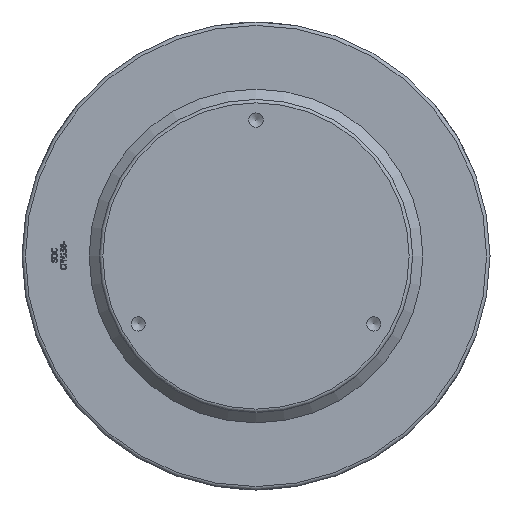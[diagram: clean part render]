
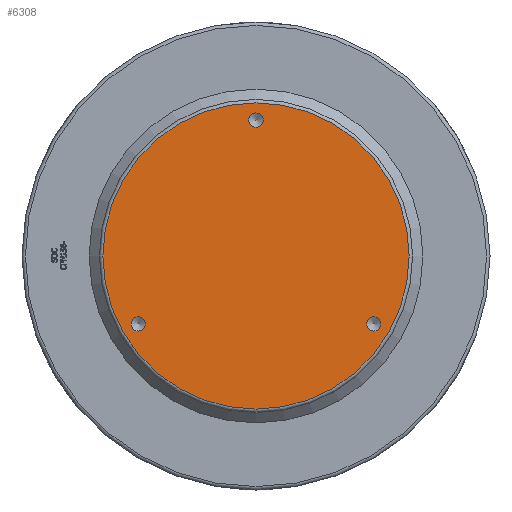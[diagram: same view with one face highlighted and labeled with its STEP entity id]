
A CAD part, front view. The second image highlights one B-rep face of the part: STEP entity #6308.
In plain terms, the highlighted planar face has unit normal (0, -1, 0) as drawn and (0, 1, 0) by its records, which use the part's own axes.
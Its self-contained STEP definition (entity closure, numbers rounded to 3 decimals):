
#99=PLANE('',#6632);
#1814=FACE_BOUND('',#2412,.T.);
#1815=FACE_BOUND('',#2413,.T.);
#1816=FACE_BOUND('',#2414,.T.);
#2037=FACE_OUTER_BOUND('',#2411,.T.);
#2411=EDGE_LOOP('',(#5157));
#2412=EDGE_LOOP('',(#5158));
#2413=EDGE_LOOP('',(#5159));
#2414=EDGE_LOOP('',(#5160));
#2639=CIRCLE('',#6551,10.376);
#2641=CIRCLE('',#6555,10.376);
#2643=CIRCLE('',#6559,10.376);
#2645=CIRCLE('',#6630,222.5);
#2665=VERTEX_POINT('',#7672);
#2667=VERTEX_POINT('',#7678);
#2669=VERTEX_POINT('',#7684);
#2973=VERTEX_POINT('',#9842);
#3305=EDGE_CURVE('',#2665,#2665,#2639,.T.);
#3307=EDGE_CURVE('',#2667,#2667,#2641,.T.);
#3309=EDGE_CURVE('',#2669,#2669,#2643,.T.);
#3764=EDGE_CURVE('',#2973,#2973,#2645,.T.);
#5157=ORIENTED_EDGE('',*,*,#3764,.F.);
#5158=ORIENTED_EDGE('',*,*,#3305,.T.);
#5159=ORIENTED_EDGE('',*,*,#3307,.T.);
#5160=ORIENTED_EDGE('',*,*,#3309,.T.);
#6308=ADVANCED_FACE('',(#2037,#1814,#1815,#1816),#99,.T.);
#6551=AXIS2_PLACEMENT_3D('',#7673,#6755,#6756);
#6555=AXIS2_PLACEMENT_3D('',#7679,#6763,#6764);
#6559=AXIS2_PLACEMENT_3D('',#7685,#6771,#6772);
#6630=AXIS2_PLACEMENT_3D('',#9843,#7176,#7177);
#6632=AXIS2_PLACEMENT_3D('',#9846,#7180,#7181);
#6755=DIRECTION('center_axis',(0.,-1.,0.));
#6756=DIRECTION('ref_axis',(-0.5,0.,-0.866));
#6763=DIRECTION('center_axis',(0.,-1.,0.));
#6764=DIRECTION('ref_axis',(-0.5,0.,0.866));
#6771=DIRECTION('center_axis',(0.,-1.,0.));
#6772=DIRECTION('ref_axis',(1.,0.,0.));
#7176=DIRECTION('center_axis',(0.,-1.,0.));
#7177=DIRECTION('ref_axis',(-1.,0.,0.));
#7180=DIRECTION('center_axis',(0.,1.,0.));
#7181=DIRECTION('ref_axis',(0.,0.,1.));
#7672=CARTESIAN_POINT('',(165.852,409.5,-107.736));
#7673=CARTESIAN_POINT('Origin',(171.04,409.5,-98.75));
#7678=CARTESIAN_POINT('',(-176.228,409.5,-89.764));
#7679=CARTESIAN_POINT('Origin',(-171.04,409.5,-98.75));
#7684=CARTESIAN_POINT('',(10.376,409.5,197.5));
#7685=CARTESIAN_POINT('Origin',(0.,409.5,197.5));
#9842=CARTESIAN_POINT('',(222.5,409.5,0.));
#9843=CARTESIAN_POINT('Origin',(0.,409.5,0.));
#9846=CARTESIAN_POINT('Origin',(227.5,409.5,0.));
